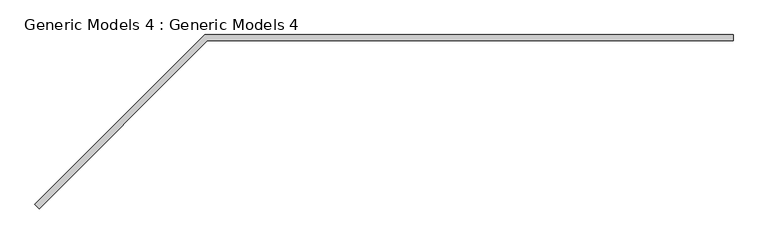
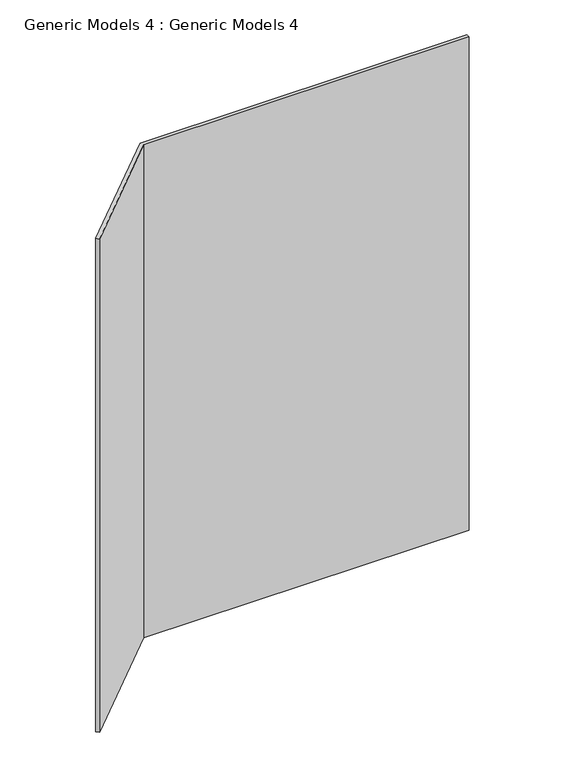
"""IFC4 building model written with IfcOpenShell, lengths in millimetres: proxy geometry, Generic Models 4 : Generic Models 4."""

from ifc_helpers import new_model, si_unit, frame, origin, place, context, project, spatial, polyline, outline, extrude, source, transform, mapped, element, save


def generic_models_4_generic_models_4_86da2cf7(model_context):
    return source(origin(), model_context, "Body", "SweptSolid", [
        extrude(outline(polyline([(1270.0, 11684.0), (127.8109593, 11684.0), (-237.7192444, 11318.4692444), (-246.6995005, 11327.4495005), (122.5504414, 11696.7), (1270.0, 11696.7), (1270.0, 11684.0)])), frame((0.0, 0.0, 3398.8), z_axis=(0.0, 0.0, 1.0), x_axis=(1.0, 0.0, 0.0)), (0.0, 0.0, 1.0), 1828.8),
    ])


if __name__ == "__main__":
    model = new_model("IFC4")
    model_context = context("Model", 3, world=origin())
    ifc_project = project(units=[si_unit("LENGTHUNIT", "METRE", prefix="MILLI")], contexts=[model_context])
    site = spatial("IfcSite", under=ifc_project)
    building = spatial("IfcBuilding", under=site)
    placement = place(None, origin())
    generic_models_4_generic_models_4_shape = generic_models_4_generic_models_4_86da2cf7(model_context)
    element("IfcBuildingElementProxy", 1, Name="Generic Models 4 : Generic Models 4", ObjectType="Generic Models 4 : Generic Models 4", at=placement, inside=building, context=model_context, shape_type="MappedRepresentation", body=[
        mapped(generic_models_4_generic_models_4_shape, transform((0.0, 0.0, 0.0), x_axis=(1.0, 0.0, 0.0), y_axis=(0.0, 1.0, 0.0), z_axis=(0.0, 0.0, 1.0))),
    ])
    save(model, "model.ifc")
